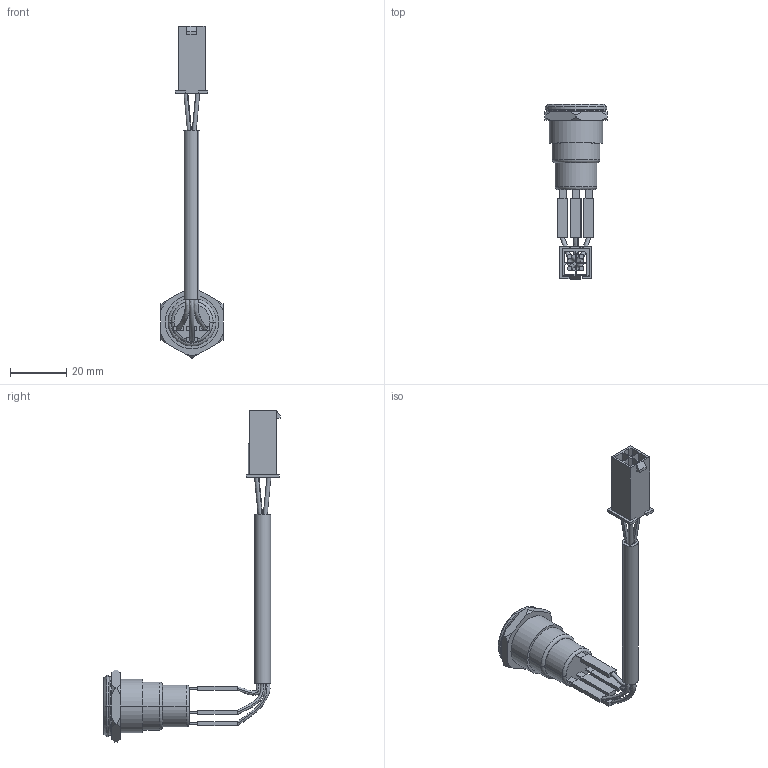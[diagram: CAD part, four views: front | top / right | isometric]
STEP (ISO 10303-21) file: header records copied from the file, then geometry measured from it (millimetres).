
FILE_DESCRIPTION (( 'STEP AP203' ), '1' );
FILE_NAME ('ezSPBC-BD_B Courbe.STEP', '2017-05-24T07:56:35', ( '' ), ( '' ), 'SwSTEP 2.0', 'SolidWorks 2014', '' );
FILE_SCHEMA (( 'CONFIG_CONTROL_DESIGN' ));
Length unit declared in the file: millimetre
Products named in the file (4): M_202465; 039013043; ezSPBC-BD_B Courbe; Cable B_Courb‚
Assembly tree (3 placements, depth 2):
  ezSPBC-BD_B Courbe
    Cable B_Courb‚
    M_202465
    039013043
Bounding box: 22.1 x 62.5 x 117.65 mm (x, y, z)
Volume: 10651.8 mm3; surface area: 8688.4 mm2
Topology: 5 solids, 5 shells, 276 faces, 693 edges, 446 vertices
Faces by surface type: plane 185, cylinder 53, bspline 16, cone 14, torus 8
Entity records: 9341 total; most frequent: CARTESIAN_POINT 2295, ORIENTED_EDGE 1386, DIRECTION 1351, EDGE_CURVE 693, LINE 467, VECTOR 467, VERTEX_POINT 446, AXIS2_PLACEMENT_3D 442
